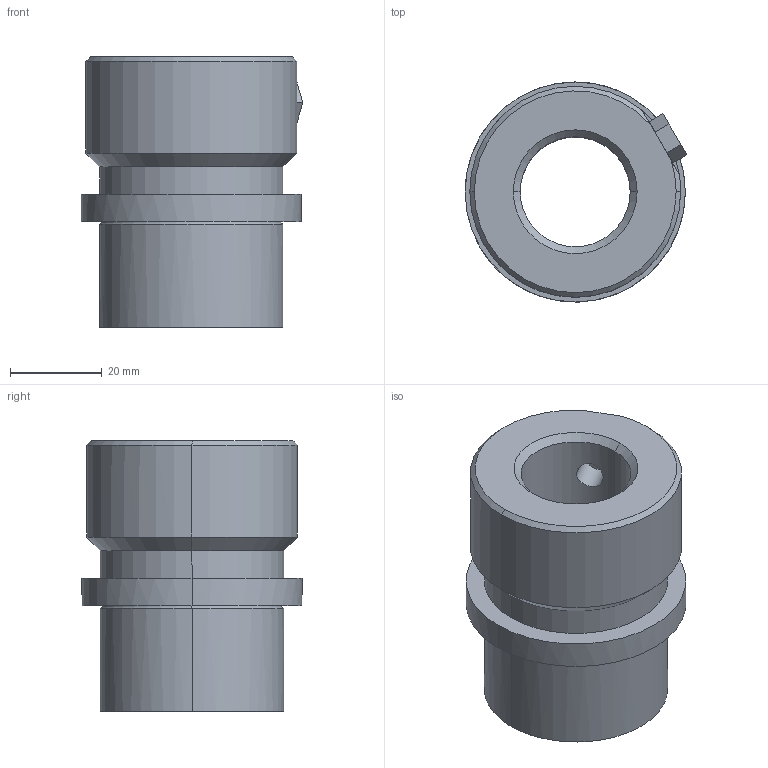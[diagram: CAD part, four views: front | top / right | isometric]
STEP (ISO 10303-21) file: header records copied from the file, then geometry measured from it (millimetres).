
FILE_DESCRIPTION(('CATIA V5 STEP Exchange'),'2;1');
FILE_NAME('C:\Users\Utente\Desktop\IO LAVORO\3D X SITO CF\X SITO\741\741-24.stp','2021-01-20T18:44:10+00:00',('none'),('none'),'CATIA Version 5 Release 20 GA (IN-10)','CATIA V5 STEP AP203','none');
FILE_SCHEMA(('CONFIG_CONTROL_DESIGN'));
Length unit declared in the file: millimetre
Products named in the file (1): 741-24
Assembly tree (1 placements, depth 2):
  741-24
    #58
Bounding box: 48.34 x 48 x 59 mm (x, y, z)
Volume: 59355.1 mm3; surface area: 15985 mm2
Topology: 1 solids, 1 shells, 42 faces, 91 edges, 56 vertices
Faces by surface type: plane 15, cylinder 14, cone 9, torus 4
Entity records: 1310 total; most frequent: CARTESIAN_POINT 352, ORIENTED_EDGE 182, DIRECTION 168, EDGE_CURVE 91, AXIS2_PLACEMENT_3D 81, VERTEX_POINT 56, EDGE_LOOP 49, VECTOR 44
